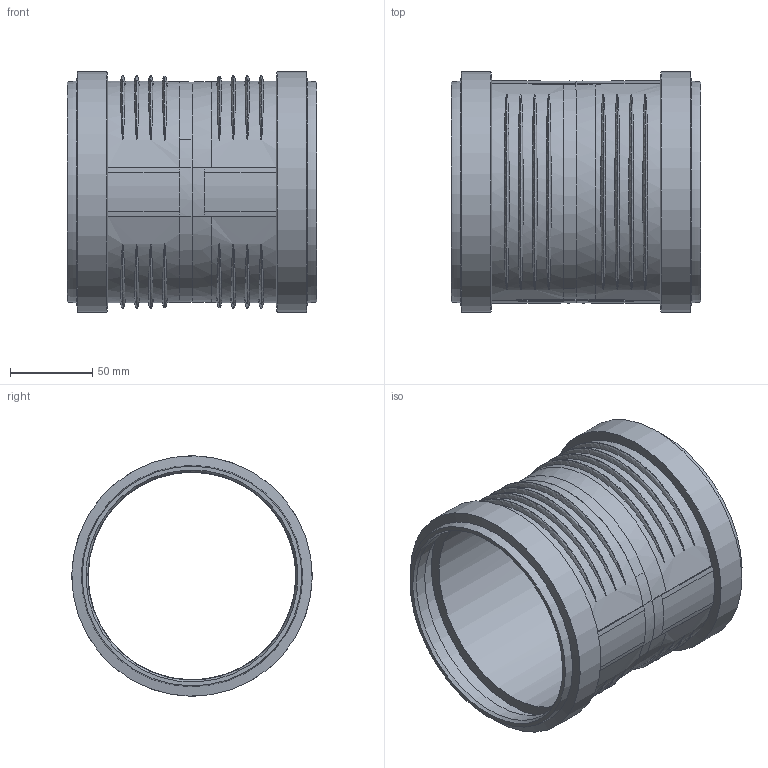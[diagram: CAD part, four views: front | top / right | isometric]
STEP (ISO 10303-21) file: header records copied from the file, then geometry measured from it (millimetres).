
FILE_DESCRIPTION(/* description */ (''),/* implementation_level */ '2;1');
FILE_NAME(/* name */ '390617.stp',/* time_stamp */ '2023-09-26T13:21:55+02:00',/* author */ ('JANAN'),/* organization */ (''),/* preprocessor_version */ 'ST-DEVELOPER v19.2',/* originating_system */ 'Autodesk Inventor 2023',/* authorisation */ '');
FILE_SCHEMA (('AUTOMOTIVE_DESIGN { 1 0 10303 214 3 1 1 }'));
Length unit declared in the file: millimetre
Products named in the file (1): tmp98DF.tmp
Bounding box: 151.6 x 145.86 x 145.86 mm (x, y, z)
Volume: 303692.7 mm3; surface area: 153337.8 mm2
Topology: 1 solids, 1 shells, 81 faces, 177 edges, 114 vertices
Faces by surface type: bspline 55, cone 10, cylinder 7, plane 6, torus 2, sphere 1
Full cylindrical faces by diameter (mm): 126 x1, 126.4 x2, 138.1 x2, 145.9 x2
Entity records: 8346 total; most frequent: CARTESIAN_POINT 6514, ORIENTED_EDGE 384, DIRECTION 302, EDGE_CURVE 192, VERTEX_POINT 141, AXIS2_PLACEMENT_3D 138, EDGE_LOOP 111, CIRCLE 111
